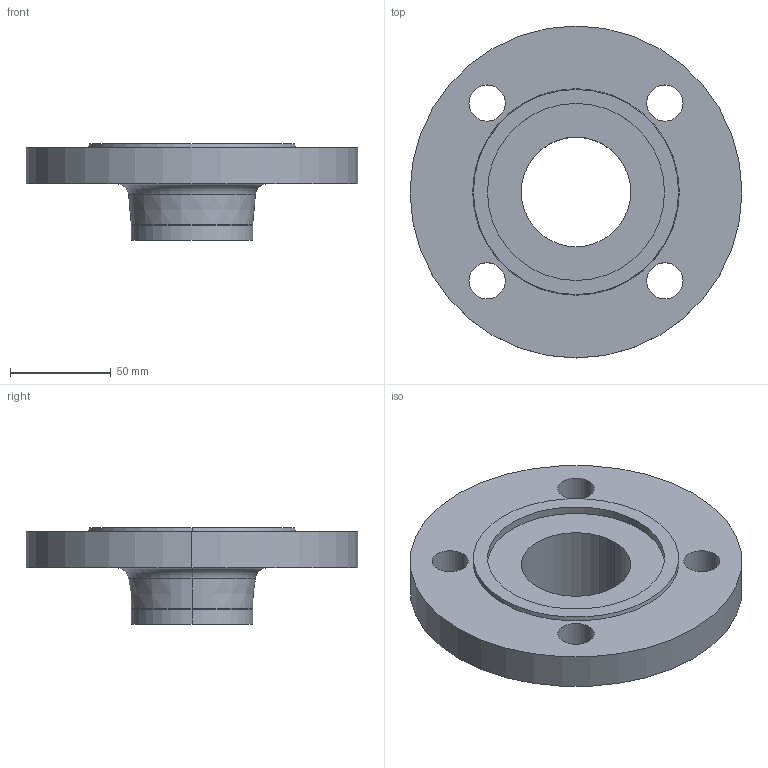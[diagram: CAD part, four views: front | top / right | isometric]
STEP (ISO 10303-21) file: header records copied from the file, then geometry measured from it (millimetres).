
FILE_DESCRIPTION (( 'STEP AP214' ), '1' );
FILE_NAME ('PN40 DN50 Type 11 - Type F Face.STEP', '2018-12-30T04:35:56', ( '' ), ( '' ), 'SwSTEP 2.0', 'SolidWorks 2019', '' );
FILE_SCHEMA (( 'AUTOMOTIVE_DESIGN' ));
Length unit declared in the file: millimetre
Products named in the file (1): PN40 DN50 Type 11 - Type F Face
Bounding box: 165 x 165 x 48 mm (x, y, z)
Volume: 340986.4 mm3; surface area: 63316.1 mm2
Topology: 1 solids, 1 shells, 29 faces, 66 edges, 42 vertices
Faces by surface type: cylinder 16, plane 5, torus 4, cone 4
Entity records: 892 total; most frequent: DIRECTION 172, CARTESIAN_POINT 138, ORIENTED_EDGE 132, AXIS2_PLACEMENT_3D 76, EDGE_CURVE 66, CIRCLE 46, VERTEX_POINT 42, EDGE_LOOP 42
